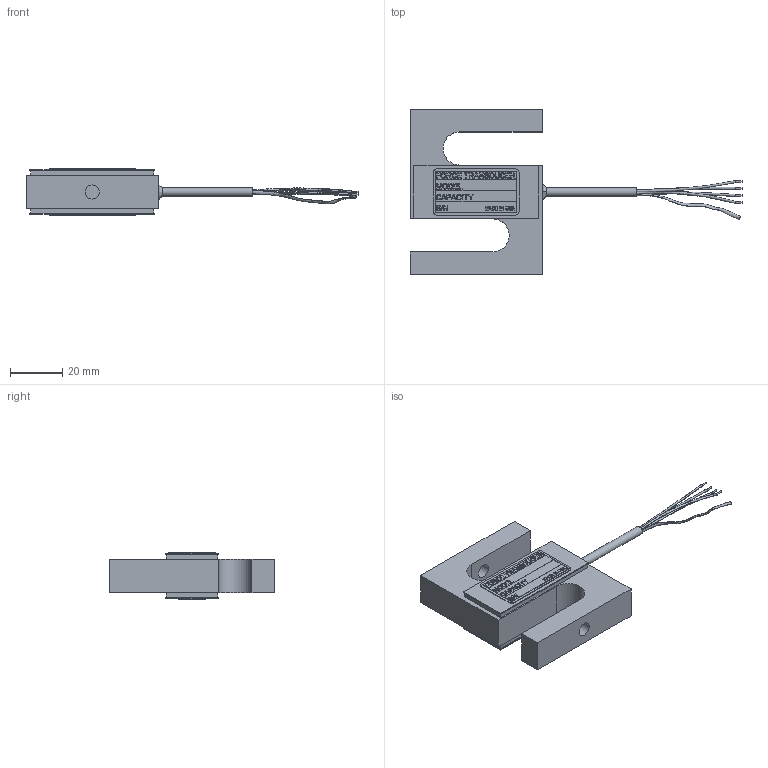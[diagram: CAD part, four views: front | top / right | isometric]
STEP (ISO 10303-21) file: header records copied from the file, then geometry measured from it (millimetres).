
FILE_DESCRIPTION (( 'STEP AP203' ), '1' );
FILE_NAME ('80031.STEP', '2016-11-29T14:04:20', ( '' ), ( '' ), 'SwSTEP 2.0', 'SolidWorks 2016', '' );
FILE_SCHEMA (( 'CONFIG_CONTROL_DESIGN' ));
Length unit declared in the file: inch
Products named in the file (1): 80031
Bounding box: 127.55 x 63.5 x 17.73 mm (x, y, z)
Volume: 33641.2 mm3; surface area: 11169.4 mm2
Topology: 4 solids, 4 shells, 1036 faces, 2723 edges, 1815 vertices
Faces by surface type: plane 755, bspline 264, cylinder 17
Full cylindrical faces by diameter (mm): 0.508 x4, 3.302 x1, 5.41 x2
Entity records: 53710 total; most frequent: CARTESIAN_POINT 29866, ORIENTED_EDGE 5432, DIRECTION 3756, EDGE_CURVE 2716, VECTOR 2140, LINE 2140, VERTEX_POINT 1815, EDGE_LOOP 1167
